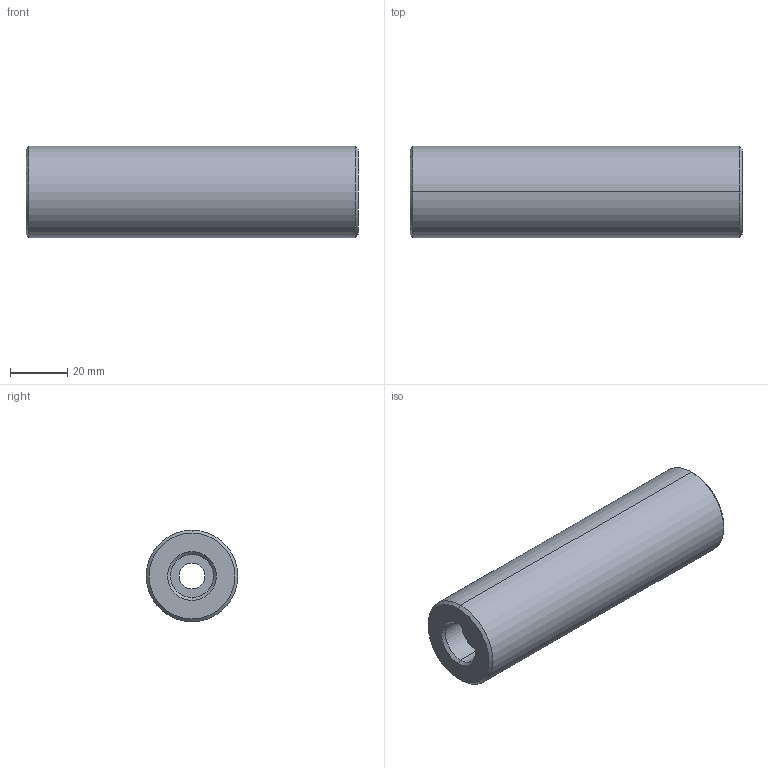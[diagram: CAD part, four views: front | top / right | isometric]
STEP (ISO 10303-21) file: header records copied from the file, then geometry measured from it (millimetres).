
FILE_DESCRIPTION (( 'STEP AP214' ), '1' );
FILE_NAME ('BR571-32x116.STEP', '2020-05-04T17:03:18', ( 'August' ), ( '' ), 'SwSTEP 2.0', 'SolidWorks 2018', '' );
FILE_SCHEMA (( 'AUTOMOTIVE_DESIGN' ));
Length unit declared in the file: millimetre
Products named in the file (1): BR571-32x116
Bounding box: 116 x 32 x 32 mm (x, y, z)
Volume: 84757 mm3; surface area: 16430.4 mm2
Topology: 1 solids, 1 shells, 17 faces, 34 edges, 20 vertices
Faces by surface type: cone 8, cylinder 6, plane 3
Entity records: 482 total; most frequent: DIRECTION 90, CARTESIAN_POINT 72, ORIENTED_EDGE 68, AXIS2_PLACEMENT_3D 38, EDGE_CURVE 34, VERTEX_POINT 20, EDGE_LOOP 20, CIRCLE 20
